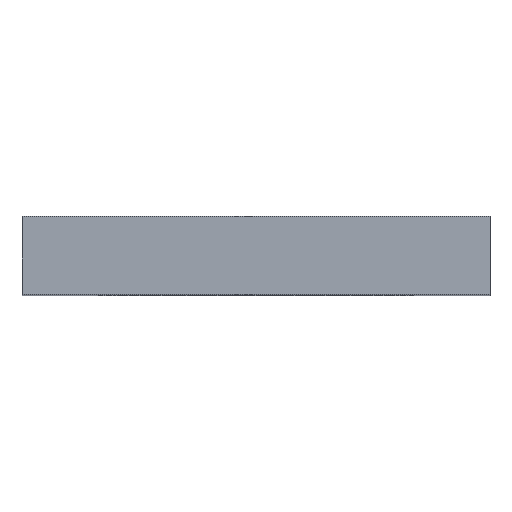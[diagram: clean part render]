
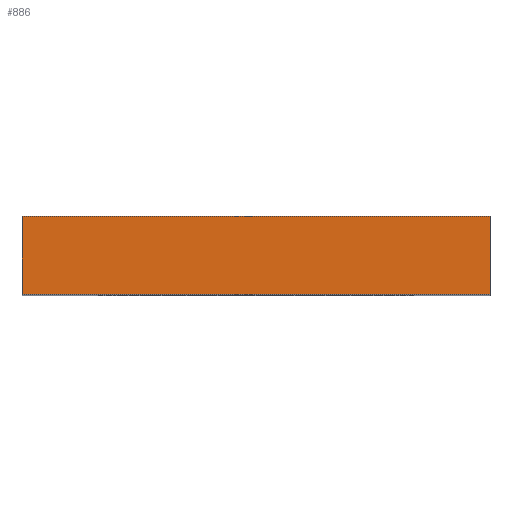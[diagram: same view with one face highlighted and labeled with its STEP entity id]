
A CAD part, top view. The second image highlights one B-rep face of the part: STEP entity #886.
In plain terms, the highlighted planar face has unit normal (0, 0, 1).
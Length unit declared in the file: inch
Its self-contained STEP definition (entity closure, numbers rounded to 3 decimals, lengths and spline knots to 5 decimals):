
#3 = CARTESIAN_POINT ( 'NONE',  ( 0., 0.5, 0. ) ) ;
#14 = VERTEX_POINT ( 'NONE', #32 ) ;
#32 = CARTESIAN_POINT ( 'NONE',  ( 0., 0., 0. ) ) ;
#45 = LINE ( 'NONE', #1019, #687 ) ;
#83 = CARTESIAN_POINT ( 'NONE',  ( 3., 0.5, 0. ) ) ;
#184 = EDGE_CURVE ( 'NONE', #1131, #14, #955, .T. ) ;
#199 = DIRECTION ( 'NONE',  ( -1., 0., 0. ) ) ;
#219 = ORIENTED_EDGE ( 'NONE', *, *, #846, .F. ) ;
#259 = DIRECTION ( 'NONE',  ( 0., -1., 0. ) ) ;
#265 = CARTESIAN_POINT ( 'NONE',  ( 3., 0.5, 0. ) ) ;
#287 = LINE ( 'NONE', #1063, #1158 ) ;
#350 = CARTESIAN_POINT ( 'NONE',  ( 0., 0.5, 0. ) ) ;
#398 = VERTEX_POINT ( 'NONE', #265 ) ;
#490 = DIRECTION ( 'NONE',  ( 0., 0., -1. ) ) ;
#617 = AXIS2_PLACEMENT_3D ( 'NONE', #959, #490, #199 ) ;
#648 = LINE ( 'NONE', #83, #863 ) ;
#680 = FACE_OUTER_BOUND ( 'NONE', #1173, .T. ) ;
#687 = VECTOR ( 'NONE', #1193, 39.37008 ) ;
#694 = CARTESIAN_POINT ( 'NONE',  ( 3., 0., 0. ) ) ;
#794 = ORIENTED_EDGE ( 'NONE', *, *, #963, .T. ) ;
#812 = ORIENTED_EDGE ( 'NONE', *, *, #184, .T. ) ;
#843 = VECTOR ( 'NONE', #1077, 39.37008 ) ;
#846 = EDGE_CURVE ( 'NONE', #1131, #398, #287, .T. ) ;
#855 = PLANE ( 'NONE',  #617 ) ;
#863 = VECTOR ( 'NONE', #259, 39.37008 ) ;
#886 = ADVANCED_FACE ( 'NONE', ( #680 ), #855, .F. ) ;
#955 = LINE ( 'NONE', #3, #843 ) ;
#959 = CARTESIAN_POINT ( 'NONE',  ( 0., 0.5, 0. ) ) ;
#963 = EDGE_CURVE ( 'NONE', #14, #985, #45, .T. ) ;
#985 = VERTEX_POINT ( 'NONE', #694 ) ;
#1019 = CARTESIAN_POINT ( 'NONE',  ( 0., 0., 0. ) ) ;
#1063 = CARTESIAN_POINT ( 'NONE',  ( 0., 0.5, 0. ) ) ;
#1077 = DIRECTION ( 'NONE',  ( 0., -1., 0. ) ) ;
#1131 = VERTEX_POINT ( 'NONE', #350 ) ;
#1132 = DIRECTION ( 'NONE',  ( 1., 0., 0. ) ) ;
#1158 = VECTOR ( 'NONE', #1132, 39.37008 ) ;
#1165 = EDGE_CURVE ( 'NONE', #398, #985, #648, .T. ) ;
#1173 = EDGE_LOOP ( 'NONE', ( #794, #1222, #219, #812 ) ) ;
#1193 = DIRECTION ( 'NONE',  ( 1., 0., 0. ) ) ;
#1222 = ORIENTED_EDGE ( 'NONE', *, *, #1165, .F. ) ;
